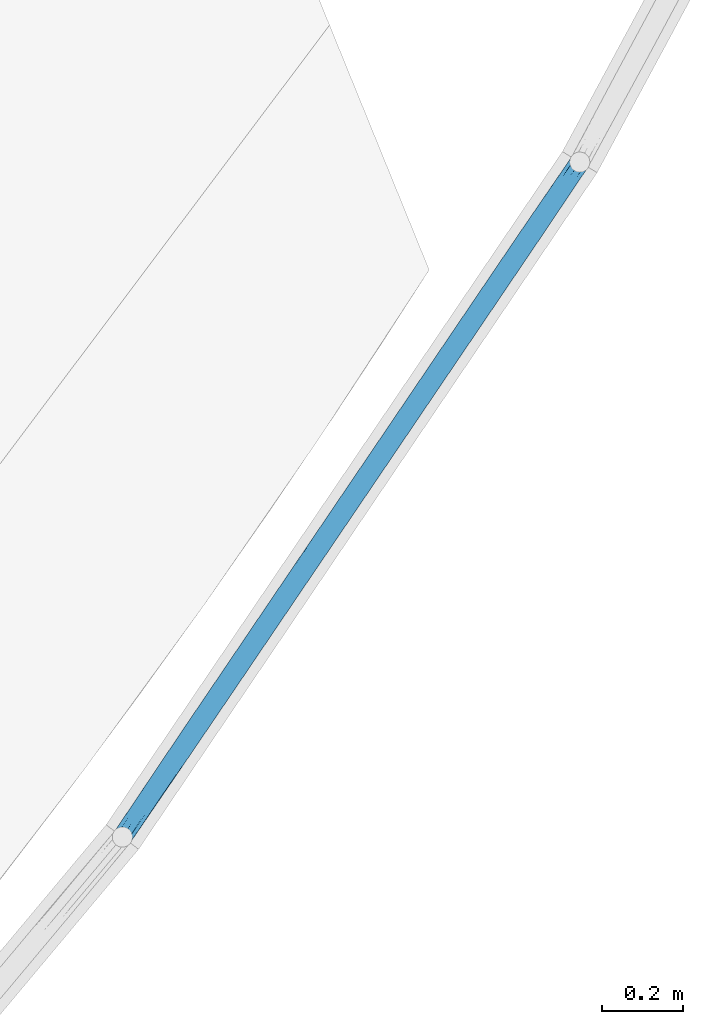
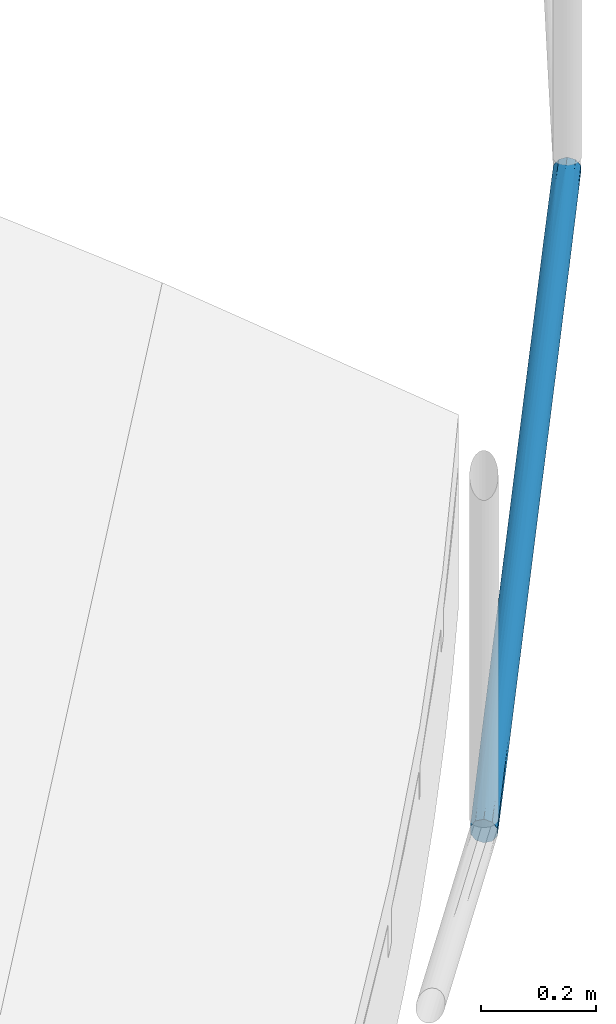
# One storey, part 27 of 33: 1 member, 1 element without a shape of its own.
"""IFC2X3 building model written with IfcOpenShell, lengths in metres."""

import ifcopenshell
import ifcopenshell.guid

model = None  # the IFC model being written
_history = None  # IfcOwnerHistory: only IFC2X3 demands one
_inside = {}  # id of a spatial element -> (the spatial element, [elements in it])
_under = {}  # id of a project, library or spatial element -> (it, [spatial elements below it])
_declared = {}  # id of a project -> (the project, [libraries it declares])
_typed = {}  # id of a type object -> (the type object, [elements of that type])
_made_of = {}  # id of a material, layer set ... -> (it, [elements and type objects made of it])


def new_model(schema):
    """Start an empty IFC model of exactly this schema.

    Asked for "IFC4X3", IfcOpenShell would pick the latest addendum, in which some entities
    have other attributes; the version numbers below select the first issue.
    IFC2X3 requires an IfcOwnerHistory on every rooted entity: one is made here for all.
    """
    global model, _history
    if schema == "IFC4X3":
        model = ifcopenshell.file(schema_version=(4, 3, 0, 0))
    else:
        model = ifcopenshell.file(schema=schema)
    _inside.clear()
    _under.clear()
    _declared.clear()
    _typed.clear()
    _made_of.clear()
    _history = None
    if model.schema == "IFC2X3":
        org = make("IfcOrganization", Name="unknown")
        user = make(
            "IfcPersonAndOrganization",
            ThePerson=make("IfcPerson", FamilyName="unknown"),
            TheOrganization=org,
        )
        app = make(
            "IfcApplication",
            ApplicationDeveloper=org,
            Version="unknown",
            ApplicationFullName="unknown",
            ApplicationIdentifier="unknown",
        )
        _history = make(
            "IfcOwnerHistory",
            OwningUser=user,
            OwningApplication=app,
            ChangeAction="ADDED",
            CreationDate=0,
        )
    return model


def make(cls, **values):
    """One entity of the class cls with the attributes given. An attribute that is None is left unset."""
    return model.create_entity(
        cls, **{name: value for name, value in values.items() if value is not None}
    )


def entity(cls, *values):
    """Any entity or typed value of the class cls, its attributes in the order of the schema. None: left unset."""
    e = model.create_entity(cls)
    for i, value in enumerate(values):
        if value is not None:
            e[i] = value
    return e


def rooted(cls, **values):
    """An entity with a GlobalId (a new one), such as an element, a storey or a relation."""
    return make(cls, GlobalId=ifcopenshell.guid.new(), OwnerHistory=_history, **values)


def si_unit(unit_type, name, prefix=None):
    """IfcSIUnit, for example si_unit("LENGTHUNIT", "METRE", prefix="MILLI")."""
    return make("IfcSIUnit", UnitType=unit_type, Prefix=prefix, Name=name)


def converted_unit(unit_type, name, factor, base, dimensions=None, offset=None):
    """IfcConversionBasedUnit, such as the inch: factor (a typed value) times the base unit."""
    return make(
        "IfcConversionBasedUnit"
        if offset is None
        else "IfcConversionBasedUnitWithOffset",
        ConversionOffset=offset,
        Dimensions=None
        if dimensions is None
        else entity("IfcDimensionalExponents", *dimensions),
        UnitType=unit_type,
        Name=name,
        ConversionFactor=make(
            "IfcMeasureWithUnit", ValueComponent=factor, UnitComponent=base
        ),
    )


def derived_unit(unit_type, elements):
    """IfcDerivedUnit: a product of units, each with its exponent."""
    return make(
        "IfcDerivedUnit",
        Elements=[
            make("IfcDerivedUnitElement", Unit=unit, Exponent=power)
            for unit, power in elements
        ],
        UnitType=unit_type,
    )


def assignment(units):
    """IfcUnitAssignment: the units of a project."""
    return None if units is None else make("IfcUnitAssignment", Units=units)


def point(xyz):
    """IfcCartesianPoint."""
    return None if xyz is None else make("IfcCartesianPoint", Coordinates=xyz)


def direction(xyz):
    """IfcDirection."""
    return None if xyz is None else make("IfcDirection", DirectionRatios=xyz)


def frame(location, z_axis=None, x_axis=None):
    """IfcAxis2Placement3D, a coordinate frame: its origin and axes. An axis left out is left unset."""
    return make(
        "IfcAxis2Placement3D",
        Location=point(location),
        Axis=direction(z_axis),
        RefDirection=direction(x_axis),
    )


def origin():
    """The frame at (0, 0, 0) with its axes left unset."""
    return frame((0.0, 0.0, 0.0))


def place(relative_to, where):
    """IfcLocalPlacement: puts the frame where relative to a parent placement (None: the world)."""
    return make(
        "IfcLocalPlacement", PlacementRelTo=relative_to, RelativePlacement=where
    )


def context(
    kind, dimensions, precision=None, world=None, true_north=None, identifier=None
):
    """IfcGeometricRepresentationContext, for example the 3D "Model" context."""
    return make(
        "IfcGeometricRepresentationContext",
        ContextIdentifier=identifier,
        ContextType=kind,
        CoordinateSpaceDimension=dimensions,
        Precision=precision,
        WorldCoordinateSystem=world,
        TrueNorth=true_north,
    )


def subcontext(parent, identifier, kind, view, scale=None):
    """IfcGeometricRepresentationSubContext, for example "Body" below "Model"."""
    return make(
        "IfcGeometricRepresentationSubContext",
        ContextIdentifier=identifier,
        ContextType=kind,
        ParentContext=parent,
        TargetScale=scale,
        TargetView=view,
    )


def project(units=None, contexts=None):
    """IfcProject with its units and contexts."""
    return rooted(
        "IfcProject",
        Name="project",
        RepresentationContexts=contexts,
        UnitsInContext=assignment(units),
    )


def spatial(cls, under=None, at=None, **own):
    """A site, building, storey or space (cls), placed at a placement, below another one or the project."""
    s = rooted(cls, ObjectPlacement=at, **own)
    if under is not None:
        _under.setdefault(under.id(), (under, []))[1].append(s)
    return s


def faces_of(points, faces, orient=None, outer=None):
    """IfcFace entities. A face is a list of loops; a loop is a list of indices into points, from 0.

    orient and outer hold one flag for each loop. By default every Orientation is true, the
    first loop of a face is its IfcFaceOuterBound and the others are IfcFaceBound.
    """
    made = []
    for i, loops in enumerate(faces):
        bounds = []
        for j, loop in enumerate(loops):
            is_outer = j == 0 if outer is None else outer[i][j]
            bounds.append(
                make(
                    "IfcFaceOuterBound" if is_outer else "IfcFaceBound",
                    Bound=make("IfcPolyLoop", Polygon=[points[k] for k in loop]),
                    Orientation=True if orient is None else orient[i][j],
                )
            )
        made.append(make("IfcFace", Bounds=bounds))
    return made


def faceted_brep(points, faces, orient=None, outer=None, voids=None):
    """IfcFacetedBrep: a solid bounded by flat faces; with voids (closed shells), ...WithVoids."""
    shared = [point(p) for p in points]
    hull = make("IfcClosedShell", CfsFaces=faces_of(shared, faces, orient, outer))
    if voids is None:
        return make("IfcFacetedBrep", Outer=hull)
    return make(
        "IfcFacetedBrepWithVoids",
        Outer=hull,
        Voids=[
            make(cls, CfsFaces=faces_of(shared, fs, o, b)) for cls, fs, o, b in voids
        ],
    )


def shape(context_of_items, identifier, shape_type, items):
    """IfcShapeRepresentation: the items that make up one representation, for example the "Body"."""
    return make(
        "IfcShapeRepresentation",
        ContextOfItems=context_of_items,
        RepresentationIdentifier=identifier,
        RepresentationType=shape_type,
        Items=items,
    )


def source(mapping_origin, context_of_items, identifier, shape_type, items):
    """IfcRepresentationMap: a shape defined once, which mapped items show again and again."""
    return make(
        "IfcRepresentationMap",
        MappingOrigin=mapping_origin,
        MappedRepresentation=shape(context_of_items, identifier, shape_type, items),
    )


def transform(
    local_origin,
    x_axis=None,
    y_axis=None,
    z_axis=None,
    scale=None,
    scale2=None,
    scale3=None,
    uniform=True,
):
    """IfcCartesianTransformationOperator3D, or its non-uniform kind. x_axis, y_axis, z_axis: its Axis1, 2, 3."""
    if uniform:
        return make(
            "IfcCartesianTransformationOperator3D",
            Axis1=direction(x_axis),
            Axis2=direction(y_axis),
            LocalOrigin=point(local_origin),
            Scale=scale,
            Axis3=direction(z_axis),
        )
    return make(
        "IfcCartesianTransformationOperator3DnonUniform",
        Axis1=direction(x_axis),
        Axis2=direction(y_axis),
        LocalOrigin=point(local_origin),
        Scale=scale,
        Axis3=direction(z_axis),
        Scale2=scale2,
        Scale3=scale3,
    )


def mapped(mapping_source, mapping_target):
    """IfcMappedItem: shows the shape of a source again, moved by a transform."""
    return make(
        "IfcMappedItem", MappingSource=mapping_source, MappingTarget=mapping_target
    )


def material(Name=None, Category=None):
    """IfcMaterial."""
    return make("IfcMaterial", Name=Name, Category=Category)


def made_of(thing, what):
    """Note that an element or type object is made of a material, layer set ...; save() writes the relation."""
    if what is not None:
        _made_of.setdefault(what.id(), (what, []))[1].append(thing)
    return thing


def type_object(cls, material=None, **own):
    """A type object (cls), such as IfcWallType, which elements share."""
    return made_of(rooted(cls, **own), material)


def type_shapes(of_type, sources):
    """Give a type object the sources (RepresentationMaps) that its elements show as mapped items."""
    of_type.RepresentationMaps = sources


def element(
    cls,
    number,
    at=None,
    inside=None,
    cuts=None,
    type_object=None,
    material=None,
    context=None,
    identifier="Body",
    shape_type=None,
    held_by="IfcProductDefinitionShape",
    body=None,
    shapes=None,
    **own,
):
    """One element of the class cls, such as IfcWall. Its Tag is "e" and its number.

    at: its placement. inside: the storey or other place that contains it. cuts: it is an
    opening in that element (IfcRelVoidsElement). A single representation is given by context,
    identifier, shape_type and body (its items); several are given by shapes. held_by: the class
    of the entity that holds the representations. save() writes the other relations.
    """
    e = rooted(cls, Tag="e%d" % number, ObjectPlacement=at, **own)
    if body is not None:
        shapes = [shape(context, identifier, shape_type, body)]
    if shapes is not None:
        e.Representation = make(held_by, Representations=shapes)
    if inside is not None:
        _inside.setdefault(inside.id(), (inside, []))[1].append(e)
    if cuts is not None:
        rooted(
            "IfcRelVoidsElement", RelatingBuildingElement=cuts, RelatedOpeningElement=e
        )
    if type_object is not None:
        _typed.setdefault(type_object.id(), (type_object, []))[1].append(e)
    return made_of(e, material)


def aggregate(whole, parts):
    """IfcRelAggregates: a whole, such as a stair, and the parts it consists of."""
    return rooted("IfcRelAggregates", RelatingObject=whole, RelatedObjects=parts)


def save(model, path):
    """Write the relations noted so far, then the file.

    IfcRelAggregates (storeys below a building ...), IfcRelContainedInSpatialStructure (elements
    in a storey), IfcRelDefinesByType, IfcRelAssociatesMaterial and IfcRelDeclares: one each for
    every whole, place, type object, material and project.
    """
    for whole, parts in _under.values():
        aggregate(whole, parts)
    for where, things in _inside.values():
        rooted(
            "IfcRelContainedInSpatialStructure",
            RelatedElements=things,
            RelatingStructure=where,
        )
    for kind, things in _typed.values():
        rooted("IfcRelDefinesByType", RelatedObjects=things, RelatingType=kind)
    for what, things in _made_of.values():
        rooted("IfcRelAssociatesMaterial", RelatedObjects=things, RelatingMaterial=what)
    for by, libraries in _declared.values():
        rooted("IfcRelDeclares", RelatingContext=by, RelatedDefinitions=libraries)
    model.write(path)


model = new_model("IFC2X3")

# Units and contexts
model_context = context("Model", 3, precision=1e-05, world=origin(), true_north=direction((6.123031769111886e-17, 1.0)))
body_context = subcontext(model_context, "Body", "Model", "MODEL_VIEW")
ifc_project = project(units=[si_unit("LENGTHUNIT", "METRE"), si_unit("AREAUNIT", "SQUARE_METRE"), si_unit("VOLUMEUNIT", "CUBIC_METRE"), converted_unit("PLANEANGLEUNIT", "DEGREE", entity("IfcRatioMeasure", 0.017453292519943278), si_unit("PLANEANGLEUNIT", "RADIAN"), dimensions=[0, 0, 0, 0, 0, 0, 0]), si_unit("MASSUNIT", "GRAM", prefix="KILO"), derived_unit("MASSDENSITYUNIT", [(si_unit("MASSUNIT", "GRAM", prefix="KILO"), 1), (si_unit("LENGTHUNIT", "METRE"), -3)]), derived_unit("IONCONCENTRATIONUNIT", [(si_unit("MASSUNIT", "GRAM", prefix="KILO"), 1), (si_unit("LENGTHUNIT", "METRE"), -3)]), derived_unit("MOMENTOFINERTIAUNIT", [(si_unit("LENGTHUNIT", "METRE"), 4)]), si_unit("TIMEUNIT", "SECOND"), si_unit("FREQUENCYUNIT", "HERTZ"), si_unit("THERMODYNAMICTEMPERATUREUNIT", "DEGREE_CELSIUS"), derived_unit("THERMALTRANSMITTANCEUNIT", [(si_unit("MASSUNIT", "GRAM", prefix="KILO"), 1), (si_unit("THERMODYNAMICTEMPERATUREUNIT", "KELVIN"), -1), (si_unit("TIMEUNIT", "SECOND"), -3)]), derived_unit("THERMALCONDUCTANCEUNIT", [(si_unit("MASSUNIT", "GRAM", prefix="KILO"), 1), (si_unit("THERMODYNAMICTEMPERATUREUNIT", "KELVIN"), -1), (si_unit("TIMEUNIT", "SECOND"), -3), (si_unit("LENGTHUNIT", "METRE"), 1)]), derived_unit("VOLUMETRICFLOWRATEUNIT", [(si_unit("LENGTHUNIT", "METRE"), 3), (si_unit("TIMEUNIT", "SECOND"), -1)]), derived_unit("MASSFLOWRATEUNIT", [(si_unit("MASSUNIT", "GRAM", prefix="KILO"), 1), (si_unit("TIMEUNIT", "SECOND"), -1)]), derived_unit("ROTATIONALFREQUENCYUNIT", [(si_unit("TIMEUNIT", "SECOND"), -1)]), si_unit("ELECTRICCURRENTUNIT", "AMPERE"), si_unit("ELECTRICVOLTAGEUNIT", "VOLT"), si_unit("POWERUNIT", "WATT"), si_unit("FORCEUNIT", "NEWTON", prefix="KILO"), si_unit("ILLUMINANCEUNIT", "LUX"), si_unit("LUMINOUSFLUXUNIT", "LUMEN"), si_unit("LUMINOUSINTENSITYUNIT", "CANDELA"), derived_unit("USERDEFINED", [(si_unit("MASSUNIT", "GRAM", prefix="KILO"), -1), (si_unit("LENGTHUNIT", "METRE"), -2), (si_unit("TIMEUNIT", "SECOND"), 3), (si_unit("LUMINOUSFLUXUNIT", "LUMEN"), 1)]), derived_unit("USERDEFINED", [(si_unit("MASSUNIT", "GRAM", prefix="KILO"), 1), (si_unit("TIMEUNIT", "SECOND"), -3), (si_unit("LENGTHUNIT", "METRE"), 3), (si_unit("ELECTRICCURRENTUNIT", "AMPERE"), -2)]), derived_unit("SOUNDPOWERUNIT", [(si_unit("MASSUNIT", "GRAM", prefix="KILO"), 1), (si_unit("TIMEUNIT", "SECOND"), -3), (si_unit("LENGTHUNIT", "METRE"), 2)]), derived_unit("SOUNDPRESSUREUNIT", [(si_unit("MASSUNIT", "GRAM", prefix="KILO"), 1), (si_unit("LENGTHUNIT", "METRE"), -1), (si_unit("TIMEUNIT", "SECOND"), -2)]), derived_unit("LINEARVELOCITYUNIT", [(si_unit("LENGTHUNIT", "METRE"), 1), (si_unit("TIMEUNIT", "SECOND"), -1)]), si_unit("PRESSUREUNIT", "PASCAL"), derived_unit("USERDEFINED", [(si_unit("MASSUNIT", "GRAM", prefix="KILO"), 1), (si_unit("LENGTHUNIT", "METRE"), -2), (si_unit("TIMEUNIT", "SECOND"), -2)]), derived_unit("LINEARFORCEUNIT", [(si_unit("MASSUNIT", "GRAM", prefix="KILO"), 1), (si_unit("TIMEUNIT", "SECOND"), -2)]), derived_unit("PLANARFORCEUNIT", [(si_unit("MASSUNIT", "GRAM", prefix="KILO"), 1), (si_unit("LENGTHUNIT", "METRE"), -1), (si_unit("TIMEUNIT", "SECOND"), -2)]), derived_unit("SPECIFICHEATCAPACITYUNIT", [(si_unit("THERMODYNAMICTEMPERATUREUNIT", "KELVIN"), -1), (si_unit("LENGTHUNIT", "METRE"), 2), (si_unit("TIMEUNIT", "SECOND"), -2)]), derived_unit("HEATINGVALUEUNIT", [(si_unit("LENGTHUNIT", "METRE"), 2), (si_unit("TIMEUNIT", "SECOND"), -2)]), derived_unit("VAPORPERMEABILITYUNIT", [(si_unit("LENGTHUNIT", "METRE"), -1), (si_unit("TIMEUNIT", "SECOND"), 1)]), derived_unit("DYNAMICVISCOSITYUNIT", [(si_unit("MASSUNIT", "GRAM", prefix="KILO"), 1), (si_unit("TIMEUNIT", "SECOND"), -1), (si_unit("LENGTHUNIT", "METRE"), -1)]), derived_unit("THERMALEXPANSIONCOEFFICIENTUNIT", [(si_unit("THERMODYNAMICTEMPERATUREUNIT", "KELVIN"), -1)]), derived_unit("MODULUSOFELASTICITYUNIT", [(si_unit("MASSUNIT", "GRAM", prefix="KILO"), 1), (si_unit("LENGTHUNIT", "METRE"), -1), (si_unit("TIMEUNIT", "SECOND"), -2)]), derived_unit("ISOTHERMALMOISTURECAPACITYUNIT", [(si_unit("LENGTHUNIT", "METRE"), 3), (si_unit("MASSUNIT", "GRAM", prefix="KILO"), -1)]), derived_unit("MOISTUREDIFFUSIVITYUNIT", [(si_unit("TIMEUNIT", "SECOND"), -1), (si_unit("LENGTHUNIT", "METRE"), 2)])], contexts=[model_context])

# Site, building, storey
site_placement = place(None, origin())
site = spatial("IfcSite", under=ifc_project, at=site_placement, Name="Superficie", CompositionType="ELEMENT")
building_placement = place(site_placement, frame((0.0, 0.0, 235.0), z_axis=(0.0, 0.0, 1.0), x_axis=(-0.7996477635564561, 0.6004693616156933, 0.0)))
building = spatial("IfcBuilding", under=site, at=building_placement, CompositionType="ELEMENT")
storey_placement = place(building_placement, origin())
storey = spatial("IfcBuildingStorey", under=building, at=storey_placement, Name="P0- Escola", CompositionType="ELEMENT", Elevation=0.0)

# Curtain wall, member
curtain_wall_type = type_object("IfcCurtainWallType", Name="Muro cortina:SER EXT- Tanca exterior", PredefinedType="NOTDEFINED")
curtain_wall_placement = place(storey_placement, origin())
curtain_wall = element("IfcCurtainWall", 1, at=curtain_wall_placement, inside=storey, type_object=curtain_wall_type, Name="Muro cortina:SER EXT- Tanca exterior", ObjectType="Muro cortina:SER EXT- Tanca exterior")
ifc_material = material(Name="Acero inoxidable")
member_type = type_object("IfcMemberType", Name="Montante circular:Perfil Tanca exterior", PredefinedType="MULLION", material=ifc_material)
shared_shape = source(origin(), body_context, "Body", "Brep", [
    faceted_brep([(-0.023150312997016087, 0.02493147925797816, -0.2261384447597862), (-0.02500000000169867, 0.025, -0.45107083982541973), (-0.028910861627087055, 0.024692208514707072, -0.226138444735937), (-0.0483223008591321, 0.009003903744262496, -1.2091076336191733), (-0.04433917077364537, 0.015842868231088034, -1.301423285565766), (-0.04755281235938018, 0.010787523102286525, -1.534448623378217), (-0.012928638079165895, 0.0218925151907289, -0.7576838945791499), (-0.012333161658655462, 0.021553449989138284, -0.501964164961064), (-0.00744693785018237, 0.017801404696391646, -0.659322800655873), (-0.004774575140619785, 0.014694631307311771, -2.0087200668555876), (-0.011024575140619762, 0.01923552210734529, -2.008489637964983), (-0.009448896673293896, 0.01957455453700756, -1.721061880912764), (-0.016893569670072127, 0.023649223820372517, -0.9430161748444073), (-0.01871675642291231, 0.024197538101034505, -0.7404025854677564), (-0.032725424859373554, 0.023776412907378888, -0.0012060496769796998), (-0.024999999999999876, 0.02377641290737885, -0.001206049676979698), (-0.0023872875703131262, 0.007347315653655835, -0.00037268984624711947), (-0.0010854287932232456, 0.007286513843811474, -0.33624937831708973), (-0.004097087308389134, 0.01371379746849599, -0.2493252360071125), (-0.04748762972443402, 0.010922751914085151, -0.6946591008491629), (-0.048605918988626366, 0.00823168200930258, -0.875822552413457), (-0.049245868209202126, 0.006094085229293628, -0.6849524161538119), (-0.0022587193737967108, 0.010384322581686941, -1.7859160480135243), (-0.0058713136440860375, 0.016096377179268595, -1.679778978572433), (-0.0024471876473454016, 0.010787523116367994, -1.5344486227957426), (-0.0006064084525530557, 0.005472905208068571, -1.1365396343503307), (-0.0031131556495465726, 0.012081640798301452, -1.111351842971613), (-0.0013940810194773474, 0.008231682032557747, -0.8758225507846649), (-0.003817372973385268, 0.013277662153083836, -0.7585098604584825), (-0.006693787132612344, 0.01702593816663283, -0.9619544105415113), (0.0, 0.0, -1.6602954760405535), (-0.0006741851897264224, 0.005766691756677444, -1.6336126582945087), (-0.0006999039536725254, 0.005874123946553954, -1.3930478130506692), (-0.04780591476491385, 0.010241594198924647, -0.2543283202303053), (-0.04635974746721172, 0.012990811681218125, -0.5002371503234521), (-0.049178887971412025, 0.00635463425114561, -0.47347613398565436), (-0.03525653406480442, 0.022799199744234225, -0.25158510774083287), (-0.038975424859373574, 0.019235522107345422, -0.0009757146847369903), (-0.015232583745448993, 0.023012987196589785, -1.147543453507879), (-0.011998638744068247, 0.02135332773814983, -0.978776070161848), (-0.010653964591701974, 0.02047416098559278, -1.1878711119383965), (-0.04268069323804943, 0.017674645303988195, -1.7624670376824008), (-0.03573471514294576, 0.02257799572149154, -1.7436221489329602), (-0.0389754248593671, 0.019235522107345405, -2.008489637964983), (-0.047612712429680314, 0.007347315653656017, -2.0090929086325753), (-0.04906110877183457, 0.006786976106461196, -1.7408862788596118), (-0.04647814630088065, 0.012794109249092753, -1.7715843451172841), (-0.019041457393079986, 0.024279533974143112, -1.320507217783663), (-0.013571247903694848, 0.0222347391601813, -1.340661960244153), (-0.022166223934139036, 0.024838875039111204, -1.5208630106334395), (-0.024159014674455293, 0.024985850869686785, -1.6992097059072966), (-0.02741001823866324, 0.024883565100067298, -1.5045733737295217), (-0.0036402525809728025, 0.012990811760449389, -0.5002371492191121), (-0.007463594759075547, 0.01781781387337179, -0.37751583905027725), (-0.013646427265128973, 0.02227322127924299, -1.7622366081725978), (-0.010298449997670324, 0.020220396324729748, -1.5162140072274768), (-0.03970155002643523, 0.020220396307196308, -1.5162140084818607), (-0.03443640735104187, 0.023150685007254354, -1.5019339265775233), (-0.03507264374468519, 0.022881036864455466, -1.297716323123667), (-0.03035584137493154, 0.024419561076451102, -1.326142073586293), (-0.028910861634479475, 0.024692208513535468, -1.7119525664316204), (-0.024999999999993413, 0.02377641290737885, -2.008259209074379), (-0.03272542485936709, 0.023776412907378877, -2.0082592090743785), (-0.006908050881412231, 0.017253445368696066, -1.269939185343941), (-0.0023872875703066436, 0.007347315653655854, -2.0090929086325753), (-0.0007350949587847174, 0.006017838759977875, -1.828298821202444), (0.0, 0.0, -2.009465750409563), (-0.043926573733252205, 0.01633354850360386, -1.5373314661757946), (-0.04953555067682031, 0.004796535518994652, -1.2938134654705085), (-0.049525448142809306, 0.004847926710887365, -1.4928892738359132), (-0.011667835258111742, 0.02114836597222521, -0.2479269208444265), (-0.03215391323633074, 0.02395457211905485, -1.1267910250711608), (-0.006836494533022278, 0.017178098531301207, -0.18989864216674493), (-0.02026400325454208, 0.024547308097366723, -1.1061051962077), (-0.0342564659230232, 0.023223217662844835, -0.7008352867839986), (-0.027716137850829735, 0.024852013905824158, -0.727901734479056), (-0.02993805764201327, 0.024507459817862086, -0.9309508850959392), (-0.04274867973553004, 0.017606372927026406, -0.49799937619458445), (-0.04000916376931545, 0.019993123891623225, -0.7536128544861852), (-0.044432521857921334, 0.015728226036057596, -0.7159717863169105), (-0.046333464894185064, 0.013033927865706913, -0.8880336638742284), (0.0, 0.0, -0.612784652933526), (0.0, 0.0, -0.6983414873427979), (0.0, 0.0, -0.9619549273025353), (-0.04952040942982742, 0.0048733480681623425, -1.0666948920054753), (-0.04999999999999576, 0.0, -1.3111256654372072), (0.0, 0.0, -1.3111252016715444), (0.0, 0.0, -1.0475122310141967), (-0.0023352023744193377, 0.010550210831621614, -1.317147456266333), (-0.006597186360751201, 0.016921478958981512, -1.4769213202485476), (-0.015933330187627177, 0.02329797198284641, -1.5185385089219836), (-0.025000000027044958, 0.025, -1.0047326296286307), (-0.02273420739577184, 0.02489711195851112, -0.8357759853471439), (0.0, 0.0, -1.3966818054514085), (0.0, 0.0, -1.7030737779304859), (0.0, 0.0, -1.8348801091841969), (-0.01727457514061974, 0.023776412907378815, -2.008259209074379), (-0.01969374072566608, 0.02443038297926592, -1.7645611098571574), (-0.024694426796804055, 0.024998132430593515, -1.3103128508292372), (-0.03897609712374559, 0.02072845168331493, -1.2035465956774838), (-0.03766683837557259, 0.02155344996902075, -0.5019641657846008), (-0.031563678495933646, 0.02412297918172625, -0.47651750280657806), (-0.023112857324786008, 0.024928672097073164, -0.6434338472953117), (-0.016897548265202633, 0.023650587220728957, -0.5443201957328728), (-0.01813825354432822, 0.024039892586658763, -0.3401413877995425), (-0.045225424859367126, 0.014694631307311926, -2.0087200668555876), (-0.011024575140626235, 0.019235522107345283, -0.0009757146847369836), (-0.017274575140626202, 0.023776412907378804, -0.001206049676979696), (0.0, 0.0, -0.306392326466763), (-0.0011472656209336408, 0.007486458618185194, -0.6069318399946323), (0.0, 0.0, 0.0), (0.0, 0.0, -0.1745853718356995), (-0.004774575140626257, 0.014694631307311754, -0.0007453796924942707), (0.0, 0.0, -0.34917074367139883), (-0.007899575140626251, 0.01696507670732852, -0.0008605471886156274), (-0.04999999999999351, 0.0, -2.009465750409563), (-0.04999999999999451, 0.0, -1.7030737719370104), (-0.04999999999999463, 0.0, -1.6602957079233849), (-0.049999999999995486, 0.0, -1.3966817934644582), (-0.049999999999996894, 0.0, -0.9619556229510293), (-0.04999999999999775, 0.0, -0.6983408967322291), (-0.049999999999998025, 0.0, -0.6127855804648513), (-0.0458332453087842, 0.013819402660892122, -1.1058897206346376), (-0.04330621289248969, 0.017025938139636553, -0.9619544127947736), (-0.039417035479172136, 0.02042422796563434, -0.9901997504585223), (-0.034948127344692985, 0.02293544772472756, -0.9518270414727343), (-0.041067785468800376, 0.019152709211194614, -0.2756247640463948), (-0.04522542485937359, 0.01469463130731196, -0.0007453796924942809), (-0.04495843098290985, 0.015055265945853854, -0.2908283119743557), (-0.04999999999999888, 0.0, -0.34917044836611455), (-0.04999999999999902, 0.0, -0.3063966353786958), (-0.047612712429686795, 0.007347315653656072, -0.0003726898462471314), (-0.0494923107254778, 0.005012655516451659, -0.20191613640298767), (-0.05, 0.0, 0.0), (-0.04999999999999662, 0.0, -1.0475113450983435), (-0.024999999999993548, -0.023776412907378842, -2.010672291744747), (-0.028910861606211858, -0.024692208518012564, -1.8205414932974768), (-0.032725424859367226, -0.023776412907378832, -2.010672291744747), (-0.0400736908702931, -0.019944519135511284, -0.6853435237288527), (-0.034028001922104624, -0.023312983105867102, -0.5211491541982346), (-0.039687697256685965, -0.020230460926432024, -0.49246679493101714), (-0.043917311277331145, -0.01634427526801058, -0.4712132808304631), (-0.044332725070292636, -0.015850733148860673, -0.707236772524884), (-0.04755559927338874, -0.010781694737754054, -1.317456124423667), (-0.04932718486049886, -0.005760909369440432, -1.3250183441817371), (-0.049196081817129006, -0.006288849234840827, -1.5432079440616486), (-0.04639102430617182, -0.012939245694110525, -1.5096837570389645), (-0.047781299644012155, -0.01029623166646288, -1.757529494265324), (-0.04832073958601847, -0.009007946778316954, -0.7994694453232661), (-0.0475509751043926, -0.010791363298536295, -0.4741655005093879), (-0.03149743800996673, -0.02414090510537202, -1.4979969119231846), (-0.03445981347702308, -0.02314113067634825, -1.7438361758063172), (-0.04267463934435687, -0.01768069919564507, -0.24586070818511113), (-0.03570519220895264, -0.022592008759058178, -0.2647902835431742), (-0.038975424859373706, -0.019235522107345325, 0.0009757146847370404), (-0.028910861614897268, -0.024692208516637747, -0.21833975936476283), (-0.04761271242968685, -0.00734731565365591, 0.0003726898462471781), (-0.049059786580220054, -0.006791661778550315, -0.26779543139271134), (-0.04647705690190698, -0.012795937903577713, -0.23671005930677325), (-0.03881366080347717, -0.020837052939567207, -1.7078805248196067), (-0.03585042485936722, -0.021505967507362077, -2.0105570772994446), (-0.0022521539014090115, -0.010369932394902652, -0.22294070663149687), (-0.0058789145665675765, -0.016105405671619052, -0.3279978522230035), (-0.002449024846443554, -0.0107913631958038, -0.4741654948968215), (-0.010726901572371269, -0.020525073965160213, -0.8147325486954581), (-0.010844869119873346, -0.02060660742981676, -1.0338500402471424), (-0.006693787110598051, -0.017025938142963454, -1.0475113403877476), (-0.0006910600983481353, -0.005837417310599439, -1.3244785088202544), (-0.0013904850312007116, -0.008221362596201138, -1.1326533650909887), (-0.002457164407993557, -0.010808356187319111, -1.3167646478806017), (-0.0007012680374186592, -0.005879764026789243, -0.6161992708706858), (-0.0006738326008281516, -0.00576520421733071, -0.37571772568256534), (-0.008924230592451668, -0.019146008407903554, -1.7360018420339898), (-0.007425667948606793, -0.017780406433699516, -1.4956823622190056), (-0.012311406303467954, -0.021540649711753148, -1.509320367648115), (-0.037688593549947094, -0.021540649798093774, -1.5093203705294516), (-0.004774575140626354, -0.014694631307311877, 0.0007453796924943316), (-0.01102457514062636, -0.019235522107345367, 0.0009757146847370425), (-0.009460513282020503, -0.019583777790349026, -0.28771287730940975), (-0.027784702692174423, -0.024844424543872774, -0.4867797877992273), (-0.004774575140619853, -0.014694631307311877, -2.0102114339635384), (-0.011024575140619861, -0.019235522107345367, -2.0104418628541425), (-0.022602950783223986, -0.02488481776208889, -1.3696564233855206), (-0.018424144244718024, -0.024119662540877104, -1.5343985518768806), (-0.018325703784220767, -0.024092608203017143, -1.2524799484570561), (-0.003698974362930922, -0.013086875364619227, -1.1017782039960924), (-0.0031136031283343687, -0.012082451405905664, -0.8964876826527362), (-0.0136540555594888, -0.022277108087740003, -0.24563036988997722), (-0.010312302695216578, -0.020230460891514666, -0.4924667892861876), (-0.0006016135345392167, -0.0054514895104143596, -0.8729261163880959), (-0.018561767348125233, -0.02415676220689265, -0.5629737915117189), (-0.023580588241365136, -0.024959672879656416, -0.7381634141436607), (-0.02008414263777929, -0.02451192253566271, -0.9095748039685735), (-0.025000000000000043, -0.023776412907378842, 0.0012060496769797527), (-0.02069186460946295, -0.024626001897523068, -0.26942087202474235), (-0.04953488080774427, -0.004799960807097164, -0.7146922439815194), (-0.049523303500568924, -0.004858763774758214, -0.5155582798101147), (-0.006927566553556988, -0.017273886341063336, -0.7393584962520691), (-0.002387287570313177, -0.007347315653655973, 0.0003726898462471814), (-0.0007284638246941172, -0.005991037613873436, -0.18048708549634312), (-0.024999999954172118, -0.025, -1.5594767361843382), (-0.021089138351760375, -0.024692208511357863, -1.7850745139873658), (-0.03010633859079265, -0.024472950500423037, -0.7798475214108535), (-0.03283928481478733, -0.023739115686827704, -1.100905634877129), (-0.024999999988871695, -0.025, -1.0047331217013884), (-0.0147319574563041, -0.02279401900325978, -1.759996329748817), (-0.013960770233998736, -0.022430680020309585, -1.177224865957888), (-0.010008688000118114, -0.020006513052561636, -1.2559987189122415), (-0.027345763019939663, -0.024889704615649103, -1.2821049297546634), (-0.04268399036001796, -0.017671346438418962, -1.482996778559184), (-0.04050895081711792, -0.019607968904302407, -1.2732752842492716), (-0.04483570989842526, -0.015216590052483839, -1.2822434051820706), (-0.0022040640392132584, -0.010263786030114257, -1.7568389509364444), (-0.002387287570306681, -0.007347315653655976, -2.0098385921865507), (-0.0008067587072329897, -0.006299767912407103, -1.540914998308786), (-0.04860951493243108, -0.008221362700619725, -1.132653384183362), (-0.049520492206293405, -0.004872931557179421, -0.9421052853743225), (-0.005186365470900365, -0.015245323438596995, -1.2829224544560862), (-0.0023371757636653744, -0.010554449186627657, -0.6910646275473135), (-0.006596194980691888, -0.016920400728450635, -0.5317403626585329), (-0.014579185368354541, -0.022724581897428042, -0.4492624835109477), (-0.014887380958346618, -0.022863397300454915, -0.9120329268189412), (-0.017274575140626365, -0.023776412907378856, 0.0012060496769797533), (-0.014165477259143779, -0.022530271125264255, -0.6681969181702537), (-0.03272542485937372, -0.023776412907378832, 0.0012060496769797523), (-0.022811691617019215, -0.024904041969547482, -0.45673128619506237), (-0.022609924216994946, -0.024885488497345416, -1.17393764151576), (-0.0452254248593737, -0.01469463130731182, 0.0007453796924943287), (-0.04182432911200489, -0.01849167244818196, -0.8551833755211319), (-0.03485228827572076, -0.02297677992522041, -1.3164511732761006), (-0.037719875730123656, -0.021522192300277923, -0.8403200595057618), (-0.03728879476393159, -0.021771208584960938, -1.1446391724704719), (-0.043306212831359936, -0.017025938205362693, -1.0475113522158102), (-0.0463967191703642, -0.012929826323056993, -1.0974406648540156), (-0.04554190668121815, -0.014248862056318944, -0.8989656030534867), (-0.045474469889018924, -0.014345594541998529, -1.8117022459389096), (-0.04267415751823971, -0.017681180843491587, -1.7244937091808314), (-0.0452254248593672, -0.014694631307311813, -2.0102114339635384), (-0.03897542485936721, -0.01923552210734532, -2.0104418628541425), (-0.005043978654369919, -0.015058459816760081, -1.7173917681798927), (-0.0036089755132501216, -0.012939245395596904, -1.509683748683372), (-0.017274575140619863, -0.023776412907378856, -2.010672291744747), (-0.000509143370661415, -0.005019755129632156, -1.8077270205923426), (-0.049487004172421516, -0.005038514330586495, -1.8068990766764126), (-0.04761271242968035, -0.007347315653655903, -2.0098385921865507)], [[[0, 1, 2]], [[3, 4, 5]], [[6, 7, 8]], [[9, 10, 11]], [[6, 12, 13]], [[14, 15, 2]], [[16, 17, 18]], [[19, 20, 21]], [[22, 23, 24]], [[25, 26, 27]], [[28, 29, 8]], [[30, 31, 32]], [[33, 34, 35]], [[14, 36, 37]], [[38, 39, 40]], [[41, 42, 43]], [[44, 45, 46]], [[47, 38, 48]], [[49, 50, 51]], [[52, 8, 53]], [[54, 55, 11]], [[36, 14, 2]], [[42, 41, 56]], [[57, 58, 59]], [[60, 61, 62]], [[50, 61, 60]], [[26, 63, 29]], [[64, 65, 66]], [[67, 46, 5]], [[68, 5, 69]], [[70, 53, 7]], [[59, 58, 71]], [[53, 72, 18]], [[38, 73, 12]], [[74, 75, 76]], [[77, 78, 79]], [[52, 53, 18]], [[18, 17, 52]], [[80, 19, 79]], [[34, 19, 35]], [[27, 81, 82, 83]], [[27, 83, 25]], [[67, 56, 41]], [[84, 68, 85]], [[86, 32, 25]], [[25, 83, 87, 86]], [[26, 29, 28]], [[88, 25, 32]], [[23, 89, 24]], [[63, 26, 88]], [[90, 48, 55]], [[40, 48, 38]], [[91, 92, 73]], [[31, 24, 32]], [[88, 32, 24]], [[32, 86, 93, 30]], [[22, 65, 64]], [[24, 31, 22]], [[65, 22, 31]], [[64, 9, 22]], [[11, 89, 23]], [[22, 9, 23]], [[90, 55, 54]], [[65, 30, 94, 95, 66]], [[96, 54, 10]], [[97, 54, 96]], [[55, 89, 11]], [[97, 96, 61]], [[90, 97, 49]], [[62, 42, 60]], [[97, 50, 49]], [[98, 47, 49]], [[57, 60, 42]], [[56, 4, 99]], [[100, 74, 78]], [[100, 36, 101]], [[97, 90, 54]], [[90, 49, 47]], [[49, 51, 98]], [[73, 38, 47]], [[71, 98, 59]], [[73, 98, 91]], [[98, 73, 47]], [[12, 73, 92]], [[92, 75, 102]], [[103, 1, 104]], [[13, 103, 6]], [[12, 6, 39]], [[7, 53, 8]], [[12, 39, 38]], [[28, 8, 52]], [[29, 6, 8]], [[6, 29, 39]], [[40, 29, 63]], [[29, 40, 39]], [[55, 40, 63]], [[46, 105, 44]], [[72, 70, 106]], [[7, 104, 70]], [[55, 48, 40]], [[47, 48, 90]], [[7, 103, 104]], [[107, 106, 70]], [[15, 0, 2]], [[107, 70, 104]], [[16, 108, 17]], [[104, 0, 107]], [[52, 17, 109]], [[16, 110, 111, 108]], [[27, 28, 109]], [[18, 112, 16]], [[17, 108, 113, 81]], [[17, 81, 109]], [[81, 27, 109]], [[105, 41, 43]], [[57, 42, 56]], [[42, 62, 43]], [[46, 41, 105]], [[56, 67, 4]], [[109, 28, 52]], [[28, 27, 26]], [[72, 106, 114, 112]], [[18, 72, 112]], [[45, 115, 116, 117]], [[45, 5, 46]], [[5, 45, 69]], [[115, 45, 44]], [[69, 45, 117]], [[69, 117, 118, 85]], [[21, 119, 120, 121]], [[85, 68, 69]], [[20, 80, 122]], [[123, 122, 80]], [[99, 124, 125]], [[123, 99, 4]], [[71, 58, 99]], [[101, 2, 1]], [[2, 101, 36]], [[75, 101, 1]], [[74, 100, 101]], [[102, 75, 1]], [[76, 91, 71]], [[126, 36, 100]], [[36, 126, 37]], [[34, 77, 79]], [[37, 126, 127]], [[128, 34, 33]], [[75, 74, 101]], [[125, 124, 78]], [[125, 78, 74]], [[79, 78, 123]], [[80, 79, 123]], [[128, 77, 34]], [[126, 100, 77]], [[78, 77, 100]], [[107, 0, 15]], [[104, 1, 0]], [[123, 4, 122]], [[19, 80, 20]], [[4, 3, 122]], [[20, 122, 3]], [[19, 21, 35]], [[79, 19, 34]], [[35, 121, 129, 130]], [[131, 132, 133]], [[131, 33, 132]], [[127, 126, 128]], [[21, 20, 119]], [[121, 35, 21]], [[132, 35, 130]], [[127, 33, 131]], [[88, 24, 89]], [[25, 88, 26]], [[58, 56, 99]], [[57, 59, 51]], [[68, 84, 3]], [[35, 132, 33]], [[133, 132, 130]], [[127, 128, 33]], [[77, 128, 126]], [[56, 58, 57]], [[71, 99, 125]], [[76, 71, 125]], [[98, 71, 91]], [[74, 76, 125]], [[75, 91, 76]], [[46, 67, 41]], [[5, 4, 67]], [[55, 63, 89]], [[89, 63, 88]], [[30, 65, 31]], [[9, 11, 23]], [[10, 54, 11]], [[61, 50, 97]], [[51, 50, 60]], [[57, 51, 60]], [[98, 51, 59]], [[6, 103, 7]], [[103, 13, 102]], [[70, 72, 53]], [[84, 85, 134, 119]], [[5, 68, 3]], [[119, 20, 84]], [[20, 3, 84]], [[99, 123, 124]], [[78, 124, 123]], [[103, 102, 1]], [[92, 102, 13]], [[12, 92, 13]], [[75, 92, 91]], [[135, 136, 137]], [[138, 139, 140]], [[141, 142, 138]], [[143, 144, 145]], [[146, 145, 147]], [[148, 142, 149]], [[136, 150, 151]], [[152, 153, 154]], [[139, 155, 153]], [[156, 157, 158]], [[159, 160, 151]], [[161, 162, 163]], [[164, 165, 166]], [[167, 168, 169]], [[170, 113, 171]], [[172, 173, 174]], [[159, 151, 175]], [[176, 177, 178]], [[139, 179, 155]], [[180, 172, 181]], [[182, 183, 184]], [[166, 185, 186]], [[187, 188, 178]], [[189, 186, 168]], [[190, 191, 192]], [[193, 155, 194]], [[141, 158, 149]], [[195, 149, 196]], [[186, 197, 166]], [[198, 199, 110]], [[183, 200, 201]], [[202, 203, 204]], [[183, 205, 174]], [[206, 207, 165]], [[203, 208, 204]], [[209, 210, 211]], [[212, 180, 213]], [[167, 169, 214]], [[146, 211, 143]], [[143, 215, 144]], [[167, 87, 168]], [[168, 87, 189]], [[141, 140, 152]], [[216, 195, 120]], [[82, 170, 189]], [[189, 87, 83, 82]], [[166, 217, 185]], [[218, 189, 170]], [[162, 219, 163]], [[197, 186, 218]], [[220, 188, 187]], [[221, 165, 164]], [[221, 192, 184]], [[171, 163, 170]], [[218, 170, 163]], [[170, 82, 81, 113]], [[161, 199, 198]], [[163, 171, 161]], [[199, 161, 171]], [[198, 176, 161]], [[178, 219, 162]], [[161, 176, 162]], [[199, 113, 108, 111, 110]], [[177, 222, 187]], [[177, 187, 178]], [[220, 194, 190]], [[221, 164, 223]], [[194, 187, 222]], [[179, 202, 191]], [[193, 224, 155]], [[225, 190, 194]], [[194, 222, 193]], [[208, 182, 226]], [[207, 174, 173]], [[218, 163, 219]], [[189, 218, 186]], [[153, 155, 224]], [[155, 179, 225]], [[152, 140, 153]], [[153, 140, 139]], [[153, 224, 154]], [[158, 152, 227]], [[154, 227, 152]], [[228, 138, 142]], [[179, 139, 202]], [[210, 175, 229]], [[202, 204, 191]], [[139, 230, 202]], [[203, 202, 230]], [[231, 232, 210]], [[208, 150, 200]], [[192, 191, 204]], [[191, 190, 225]], [[158, 227, 156]], [[157, 133, 130, 129]], [[157, 149, 158]], [[149, 157, 196]], [[133, 157, 156]], [[196, 157, 129]], [[196, 129, 121, 120]], [[144, 134, 85, 118]], [[120, 195, 196]], [[148, 215, 233]], [[232, 234, 233]], [[142, 234, 228]], [[150, 229, 175]], [[182, 208, 200]], [[229, 208, 203]], [[151, 150, 175]], [[146, 147, 235]], [[137, 136, 151]], [[236, 237, 238]], [[173, 239, 240]], [[209, 175, 210]], [[205, 201, 241]], [[200, 136, 201]], [[135, 241, 201]], [[240, 212, 214]], [[181, 172, 205]], [[205, 241, 181]], [[174, 205, 172]], [[172, 239, 173]], [[205, 183, 201]], [[184, 183, 174]], [[201, 136, 135]], [[150, 136, 200]], [[240, 217, 173]], [[173, 217, 207]], [[165, 207, 166]], [[174, 207, 206]], [[169, 217, 240]], [[207, 217, 166]], [[169, 240, 214]], [[185, 169, 168]], [[212, 239, 180]], [[214, 212, 242]], [[242, 66, 95, 94]], [[214, 93, 167]], [[214, 94, 30, 93]], [[167, 93, 86, 87]], [[212, 240, 239]], [[242, 212, 213]], [[208, 229, 150]], [[231, 210, 229]], [[231, 229, 203]], [[211, 210, 232]], [[233, 211, 232]], [[209, 146, 236]], [[146, 209, 211]], [[209, 236, 159]], [[203, 230, 231]], [[231, 230, 228]], [[228, 234, 232]], [[143, 233, 215]], [[142, 148, 234]], [[148, 233, 234]], [[233, 143, 211]], [[243, 115, 244]], [[143, 145, 146]], [[145, 118, 117, 116]], [[237, 235, 147]], [[244, 147, 243]], [[144, 215, 134]], [[118, 145, 144]], [[243, 145, 116]], [[237, 147, 244]], [[159, 238, 160]], [[160, 137, 151]], [[180, 239, 172]], [[66, 242, 213]], [[214, 242, 94]], [[145, 243, 147]], [[115, 243, 116]], [[195, 216, 148]], [[169, 185, 217]], [[168, 186, 185]], [[192, 204, 226]], [[192, 221, 223]], [[164, 166, 197]], [[206, 221, 184]], [[197, 188, 164]], [[188, 220, 223]], [[221, 206, 165]], [[174, 206, 184]], [[158, 141, 152]], [[149, 142, 141]], [[188, 197, 219]], [[219, 197, 218]], [[113, 199, 171]], [[219, 178, 188]], [[178, 162, 176]], [[194, 220, 187]], [[223, 220, 190]], [[223, 190, 192]], [[188, 223, 164]], [[155, 225, 194]], [[191, 225, 179]], [[216, 120, 119, 134]], [[149, 195, 148]], [[134, 215, 216]], [[215, 148, 216]], [[231, 228, 232]], [[138, 228, 230]], [[139, 138, 230]], [[138, 140, 141]], [[183, 182, 200]], [[226, 182, 184]], [[192, 226, 184]], [[208, 226, 204]], [[209, 159, 175]], [[238, 159, 236]], [[237, 236, 235]], [[146, 235, 236]], [[222, 177, 176, 198, 110, 16, 112, 114, 106, 107, 15, 14, 37, 127, 131, 133, 156, 227, 154, 224, 193]], [[180, 181, 241, 135, 137, 160, 238, 237, 244, 115, 44, 105, 43, 62, 61, 96, 10, 9, 64, 66, 213]]]),
])
type_shapes(member_type, [shared_shape])
member_placement = place(curtain_wall_placement, frame((-11.96051167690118, -48.85631494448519, -4.674999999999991), z_axis=(0.048462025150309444, -0.998825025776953, 0.0), x_axis=(0.0, 0.0, -1.0)))
member = element("IfcMember", 2, at=member_placement, type_object=member_type, material=ifc_material, Name="Montante circular:Perfil Tanca exterior", ObjectType="Montante circular:Perfil Tanca exterior", context=body_context, shape_type="MappedRepresentation", body=[
    mapped(shared_shape, transform((0.0, 0.0, 0.0), scale=1.0)),
])
aggregate(curtain_wall, [member])

save(model, "model.ifc")
